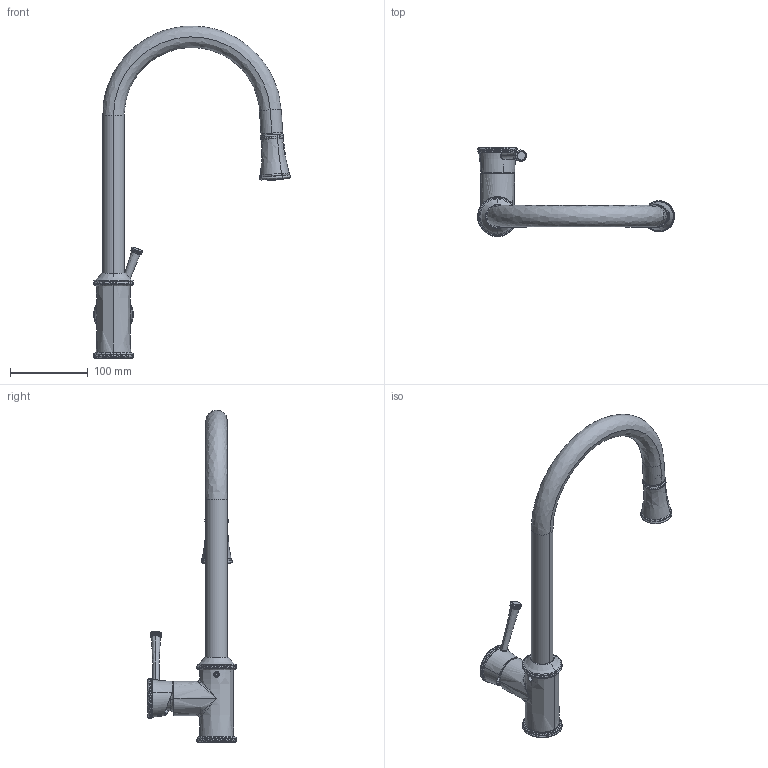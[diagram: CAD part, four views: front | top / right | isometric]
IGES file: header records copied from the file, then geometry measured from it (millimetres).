
Start section: Dassault Systemes - www.3ds.com
Global section: file name: 63445.igs; native system: DASSAULT SYSTEMES CATIA V6R2013.HF20 - www.3ds.com; preprocessor: V6R2013.HF20 B6.213.20.0_20130213T190026Z; author: prog01; organization: NEWFORMSPA; date: 20160309.180832; units: millimetre
Bounding box: 253.5 x 114.77 x 427.35 mm (x, y, z)
Volume: 212285.1 mm3; surface area: 199172.5 mm2
Topology: 15 solids, 16 shells, 2060 faces, 6121 edges, 4003 vertices
Faces by surface type: revolution 1367, plane 514, bspline 179
